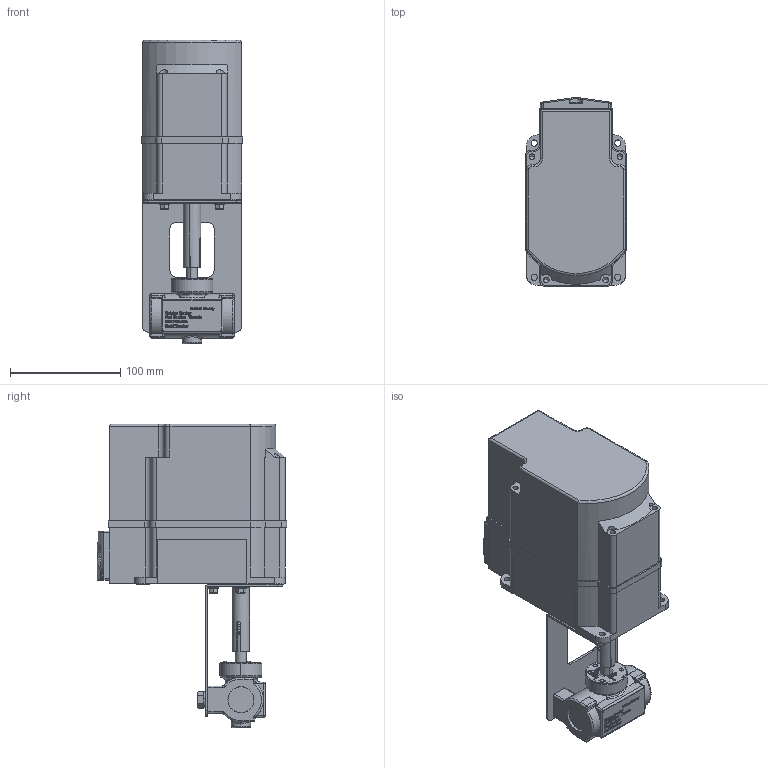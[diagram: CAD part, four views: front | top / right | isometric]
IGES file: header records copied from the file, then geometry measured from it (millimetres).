
Global section: file name: No Iges File Name specified; native system: AutoDesk Inventor R12.0; preprocessor: AutoDesk Inventor Iges Exporter R12.0; date: 20110328.091756; units: millimetre
Bounding box: 92 x 171.99 x 276 mm (x, y, z)
Volume: 2015360.9 mm3; surface area: 158385.4 mm2
Topology: 1 solids, 13 shells, 2804 faces, 7506 edges, 4899 vertices
Faces by surface type: plane 1478, bspline 961, cylinder 176, revolution 91, cone 47, torus 41, sphere 10
Full cylindrical faces by diameter (mm): 9.2 x3, 14.8 x2
